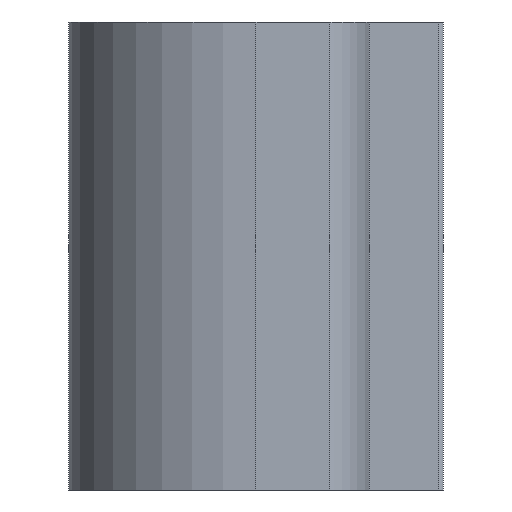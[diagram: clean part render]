
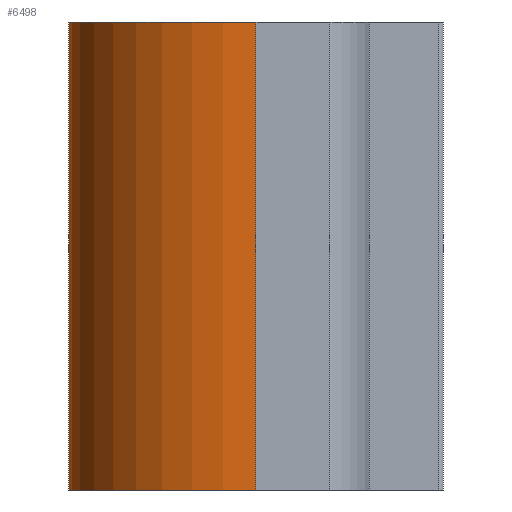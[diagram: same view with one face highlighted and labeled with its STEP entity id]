
A CAD part, left-side view. The second image highlights one B-rep face of the part: STEP entity #6498.
In plain terms, the highlighted cylindrical face has radius 40 mm (diameter 80 mm), a partial arc.
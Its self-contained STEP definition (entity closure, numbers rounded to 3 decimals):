
#123 = CARTESIAN_POINT ( 'NONE',  ( -40., 0., 50. ) ) ;
#474 = CARTESIAN_POINT ( 'NONE',  ( 0., 0., 50. ) ) ;
#497 = AXIS2_PLACEMENT_3D ( 'NONE', #474, #6340, #5239 ) ;
#779 = EDGE_CURVE ( 'NONE', #1325, #4499, #3101, .T. ) ;
#874 = CARTESIAN_POINT ( 'NONE',  ( 0., 0., -50. ) ) ;
#1214 = EDGE_CURVE ( 'NONE', #6367, #1325, #2556, .T. ) ;
#1325 = VERTEX_POINT ( 'NONE', #2220 ) ;
#1486 = DIRECTION ( 'NONE',  ( 1., 0., 0. ) ) ;
#1995 = DIRECTION ( 'NONE',  ( 0., 0., 1. ) ) ;
#2220 = CARTESIAN_POINT ( 'NONE',  ( 0., 40., -50. ) ) ;
#2319 = VECTOR ( 'NONE', #6607, 1000. ) ;
#2556 = LINE ( 'NONE', #6273, #6626 ) ;
#2714 = EDGE_LOOP ( 'NONE', ( #5815, #3892, #5385, #3691 ) ) ;
#3101 = CIRCLE ( 'NONE', #4771, 40. ) ;
#3425 = EDGE_CURVE ( 'NONE', #6367, #5583, #5590, .T. ) ;
#3691 = ORIENTED_EDGE ( 'NONE', *, *, #1214, .T. ) ;
#3811 = EDGE_CURVE ( 'NONE', #5583, #4499, #4348, .T. ) ;
#3892 = ORIENTED_EDGE ( 'NONE', *, *, #3811, .F. ) ;
#4119 = DIRECTION ( 'NONE',  ( 1., 0., 0. ) ) ;
#4131 = DIRECTION ( 'NONE',  ( 0., 0., 1. ) ) ;
#4133 = CARTESIAN_POINT ( 'NONE',  ( -40., 0., -50. ) ) ;
#4273 = DIRECTION ( 'NONE',  ( 0., 0., -1. ) ) ;
#4348 = LINE ( 'NONE', #123, #2319 ) ;
#4422 = CARTESIAN_POINT ( 'NONE',  ( 0., 40., 50. ) ) ;
#4499 = VERTEX_POINT ( 'NONE', #4133 ) ;
#4771 = AXIS2_PLACEMENT_3D ( 'NONE', #874, #4131, #1486 ) ;
#5010 = AXIS2_PLACEMENT_3D ( 'NONE', #6306, #1995, #4119 ) ;
#5198 = FACE_OUTER_BOUND ( 'NONE', #2714, .T. ) ;
#5239 = DIRECTION ( 'NONE',  ( -1., 0., 0. ) ) ;
#5385 = ORIENTED_EDGE ( 'NONE', *, *, #3425, .F. ) ;
#5583 = VERTEX_POINT ( 'NONE', #6183 ) ;
#5590 = CIRCLE ( 'NONE', #5010, 40. ) ;
#5815 = ORIENTED_EDGE ( 'NONE', *, *, #779, .T. ) ;
#6183 = CARTESIAN_POINT ( 'NONE',  ( -40., 0., 50. ) ) ;
#6266 = CYLINDRICAL_SURFACE ( 'NONE', #497, 40. ) ;
#6273 = CARTESIAN_POINT ( 'NONE',  ( 0., 40., 50. ) ) ;
#6306 = CARTESIAN_POINT ( 'NONE',  ( 0., 0., 50. ) ) ;
#6340 = DIRECTION ( 'NONE',  ( 0., 0., -1. ) ) ;
#6367 = VERTEX_POINT ( 'NONE', #4422 ) ;
#6498 = ADVANCED_FACE ( 'NONE', ( #5198 ), #6266, .T. ) ;
#6607 = DIRECTION ( 'NONE',  ( 0., 0., -1. ) ) ;
#6626 = VECTOR ( 'NONE', #4273, 1000. ) ;
